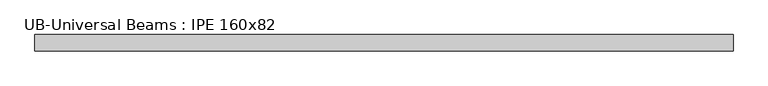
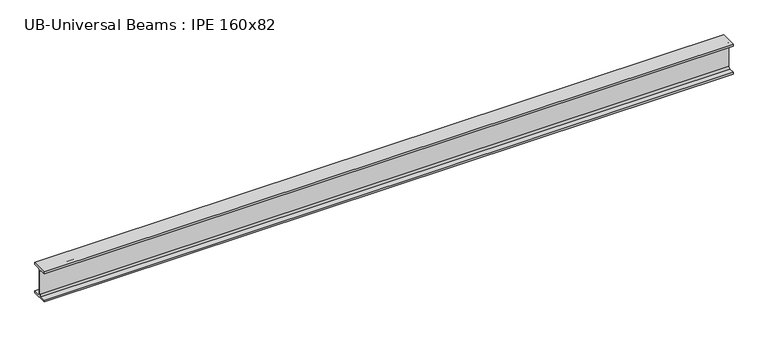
"""IFC4 building model written with IfcOpenShell, lengths in millimetres: beam geometry, UB-Universal Beams : IPE 160x82."""

from ifc_helpers import new_model, si_unit, point, frame, frame_2d, origin, place, context, project, spatial, polyline, circle_curve, trimmed, segment, composite_curve, outline, extrude, source, transform, mapped, element, save


def ub_universal_beams_ipe_160x82_ff3febe6(model_context):
    return source(origin(), model_context, "Body", "SweptSolid", [
        extrude(outline(composite_curve([segment(polyline([(41.0, -69.8), (41.0, -80.0), (-41.0, -80.0), (-41.0, -69.8), (-11.9, -69.8)]), True, "CONTINUOUS"), segment(trimmed(circle_curve(frame_2d((-11.9, -60.9)), 8.9), [point((-11.9, -69.8))], [point((-3.0, -60.9))], True, "CARTESIAN"), True, "CONTINUOUS"), segment(polyline([(-3.0, -60.9), (-3.0, 60.9)]), True, "CONTINUOUS"), segment(trimmed(circle_curve(frame_2d((-11.9, 60.9)), 8.9), [point((-3.0, 60.9))], [point((-11.9, 69.8))], True, "CARTESIAN"), True, "CONTINUOUS"), segment(polyline([(-11.9, 69.8), (-41.0, 69.8), (-41.0, 80.0), (41.0, 80.0), (41.0, 69.8), (11.9, 69.8)]), True, "CONTINUOUS"), segment(trimmed(circle_curve(frame_2d((11.9, 60.9)), 8.9), [point((11.9, 69.8))], [point((3.0, 60.9))], True, "CARTESIAN"), True, "CONTINUOUS"), segment(polyline([(3.0, 60.9), (3.0, -60.9)]), True, "CONTINUOUS"), segment(trimmed(circle_curve(frame_2d((11.9, -60.9)), 8.9), [point((3.0, -60.9))], [point((11.9, -69.8))], True, "CARTESIAN"), True, "CONTINUOUS"), segment(polyline([(11.9, -69.8), (41.0, -69.8)]), True, "CONTINUOUS")], self_intersect=False)), frame((-1742.5, 0.0, 0.0), z_axis=(1.0, 0.0, 0.0), x_axis=(0.0, 1.0, 0.0)), (0.0, 0.0, 1.0), 3461.4),
    ])


if __name__ == "__main__":
    model = new_model("IFC4")
    model_context = context("Model", 3, world=origin())
    ifc_project = project(units=[si_unit("LENGTHUNIT", "METRE", prefix="MILLI")], contexts=[model_context])
    site = spatial("IfcSite", under=ifc_project)
    building = spatial("IfcBuilding", under=site)
    placement = place(None, origin())
    ub_universal_beams_ipe_160x82_shape = ub_universal_beams_ipe_160x82_ff3febe6(model_context)
    element("IfcBeam", 1, ObjectType="UB-Universal Beams : IPE 160x82", at=placement, inside=building, context=model_context, shape_type="MappedRepresentation", body=[
        mapped(ub_universal_beams_ipe_160x82_shape, transform((0.0, 0.0, 0.0), x_axis=(1.0, 0.0, 0.0), y_axis=(0.0, 1.0, 0.0), z_axis=(0.0, 0.0, 1.0))),
    ])
    save(model, "model.ifc")
